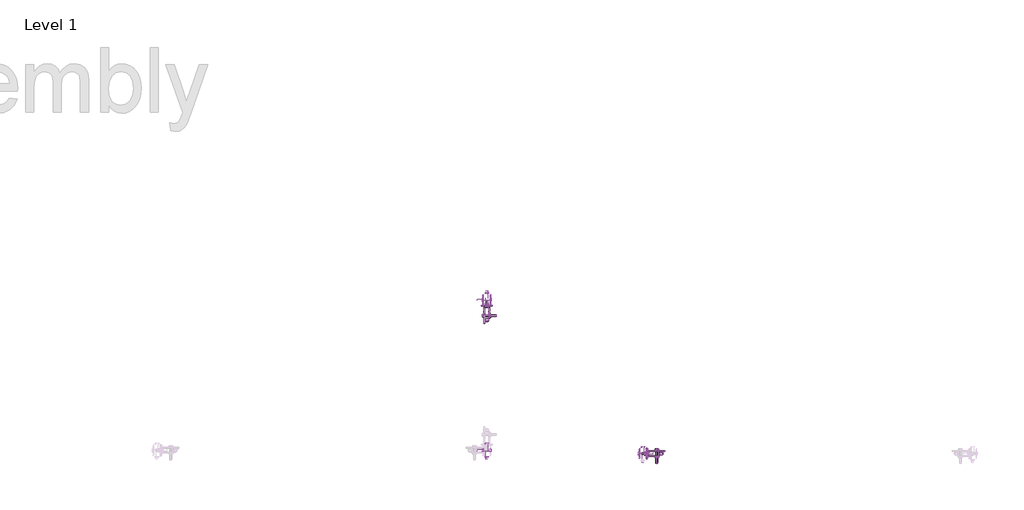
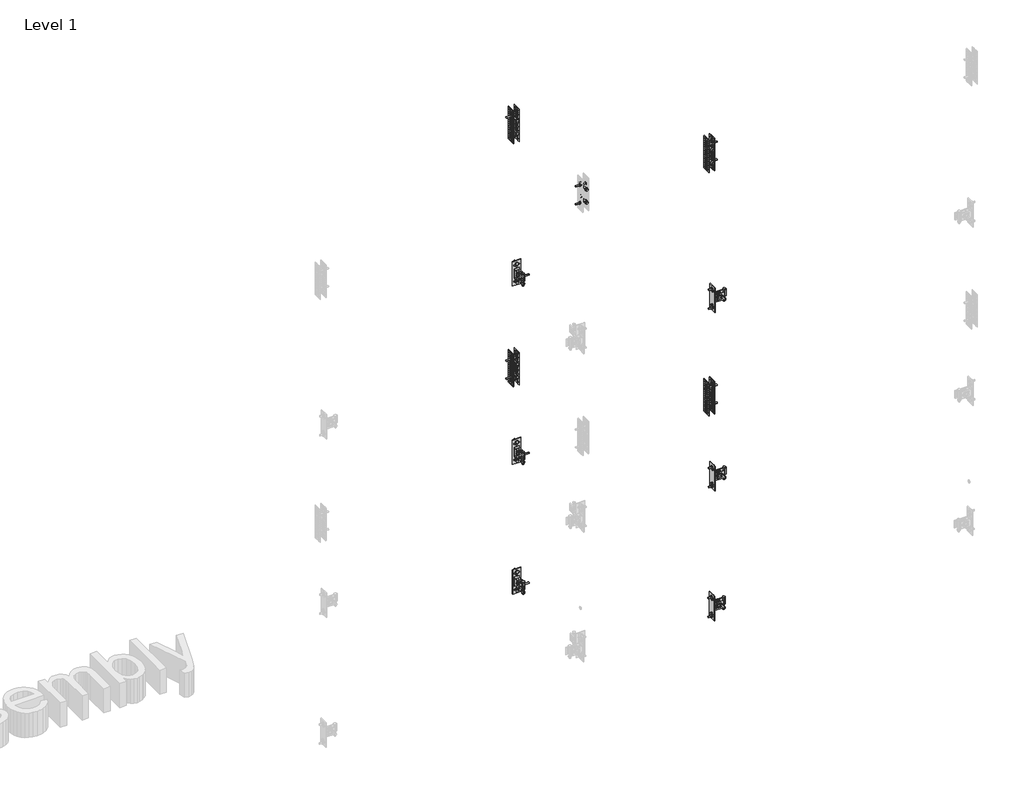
# One storey, part 15 of 32: 143 valves.
"""IFC4 building model written with IfcOpenShell, lengths in millimetres."""

from ifc_helpers import new_model, si_unit, origin, place, context, project, spatial, transform, mapped, element, save
from components import valve_fad8a5b8, hexagon_nut_galvanized_extra_m8_53389388, superfix_hexagon_screw_galvanized_8354a985, superfix_hexagon_screw_galvanized_f0d66714, superfix_hexagon_screw_galvanized_68d17cb7, superfix_hexagon_screw_galvanized_e39b877e, superfix_hexagon_screw_galvanized_3ef5af78, superfix_hexagon_screw_galvanized_3d7df342, superfix_strap_981cfdac, superfix_u_658711f6, superfix_u_bracket_h_0b8578fe, superfix_u_bracket_h_f60a1122

model = new_model("IFC4")

# Units and contexts
model_context = context("Model", 3, world=origin())
ifc_project = project(units=[si_unit("LENGTHUNIT", "METRE", prefix="MILLI")], contexts=[model_context])

# Site, building, storey
site = spatial("IfcSite", under=ifc_project)
building = spatial("IfcBuilding", under=site)
storey = spatial("IfcBuildingStorey", under=building, Name="Level 1", Elevation=0.0)

# Valves
placement = place(None, origin())
valve_shape = valve_fad8a5b8(model_context)
element("IfcValve", 1, ObjectType="Superfix Flat Washer : Superfix Flat Washer M8x15x1.5", at=placement, inside=storey, context=model_context, shape_type="MappedRepresentation", body=[
    mapped(valve_shape, transform((-16407.8949112, 29404.96055, 2600.0), x_axis=(0.0, 1.0, 0.0), y_axis=(0.0, 0.0, 1.0), z_axis=(1.0, 0.0, 0.0))),
])
element("IfcValve", 2, ObjectType="Superfix Flat Washer : Superfix Flat Washer M8x15x1.5", at=placement, inside=storey, context=model_context, shape_type="MappedRepresentation", body=[
    mapped(valve_shape, transform((-16420.3949112, 29455.96055, 2658.0), x_axis=(0.0, 0.0, 1.0), y_axis=(-1.0, 0.0, 0.0), z_axis=(0.0, -1.0, 0.0))),
])
element("IfcValve", 3, ObjectType="Superfix Flat Washer : Superfix Flat Washer M8x15x1.5", at=placement, inside=storey, context=model_context, shape_type="MappedRepresentation", body=[
    mapped(valve_shape, transform((-16420.3949112, 29455.96055, 2542.0), x_axis=(0.0, 0.0, 1.0), y_axis=(-1.0, 0.0, 0.0), z_axis=(0.0, -1.0, 0.0))),
])
element("IfcValve", 4, ObjectType="Superfix Flat Washer : Superfix Flat Washer M8x15x1.5", at=placement, inside=storey, context=model_context, shape_type="MappedRepresentation", body=[
    mapped(valve_shape, transform((-16420.3949112, 29384.96055, 2571.5), x_axis=(0.0, 1.0, 0.0), y_axis=(1.0, 0.0, 0.0), z_axis=(0.0, 0.0, -1.0))),
])
element("IfcValve", 5, ObjectType="Superfix Flat Washer : Superfix Flat Washer M8x15x1.5", at=placement, inside=storey, context=model_context, shape_type="MappedRepresentation", body=[
    mapped(valve_shape, transform((-16407.8949112, 29404.96055, 1500.0), x_axis=(0.0, 1.0, 0.0), y_axis=(0.0, 0.0, 1.0), z_axis=(1.0, 0.0, 0.0))),
])
element("IfcValve", 6, ObjectType="Superfix Flat Washer : Superfix Flat Washer M8x15x1.5", at=placement, inside=storey, context=model_context, shape_type="MappedRepresentation", body=[
    mapped(valve_shape, transform((-16420.3949112, 29455.96055, 1558.0), x_axis=(0.0, 0.0, 1.0), y_axis=(-1.0, 0.0, 0.0), z_axis=(0.0, -1.0, 0.0))),
])
element("IfcValve", 7, ObjectType="Superfix Flat Washer : Superfix Flat Washer M8x15x1.5", at=placement, inside=storey, context=model_context, shape_type="MappedRepresentation", body=[
    mapped(valve_shape, transform((-16420.3949112, 29455.96055, 1442.0), x_axis=(0.0, 0.0, 1.0), y_axis=(-1.0, 0.0, 0.0), z_axis=(0.0, -1.0, 0.0))),
])
element("IfcValve", 8, ObjectType="Superfix Flat Washer : Superfix Flat Washer M8x15x1.5", at=placement, inside=storey, context=model_context, shape_type="MappedRepresentation", body=[
    mapped(valve_shape, transform((-16420.3949112, 29384.96055, 1471.5), x_axis=(0.0, 1.0, 0.0), y_axis=(1.0, 0.0, 0.0), z_axis=(0.0, 0.0, -1.0))),
])
element("IfcValve", 9, ObjectType="Superfix Flat Washer : Superfix Flat Washer M8x15x1.5", at=placement, inside=storey, context=model_context, shape_type="MappedRepresentation", body=[
    mapped(valve_shape, transform((-16407.8949112, 29403.96055, 700.0), x_axis=(0.0, 1.0, 0.0), y_axis=(0.0, 0.0, 1.0), z_axis=(1.0, 0.0, 0.0))),
])
element("IfcValve", 10, ObjectType="Superfix Flat Washer : Superfix Flat Washer M8x15x1.5", at=placement, inside=storey, context=model_context, shape_type="MappedRepresentation", body=[
    mapped(valve_shape, transform((-16420.3949112, 29454.96055, 758.0), x_axis=(0.0, 0.0, 1.0), y_axis=(-1.0, 0.0, 0.0), z_axis=(0.0, -1.0, 0.0))),
])
element("IfcValve", 11, ObjectType="Superfix Flat Washer : Superfix Flat Washer M8x15x1.5", at=placement, inside=storey, context=model_context, shape_type="MappedRepresentation", body=[
    mapped(valve_shape, transform((-16420.3949112, 29454.96055, 642.0), x_axis=(0.0, 0.0, 1.0), y_axis=(-1.0, 0.0, 0.0), z_axis=(0.0, -1.0, 0.0))),
])
element("IfcValve", 12, ObjectType="Superfix Flat Washer : Superfix Flat Washer M8x15x1.5", at=placement, inside=storey, context=model_context, shape_type="MappedRepresentation", body=[
    mapped(valve_shape, transform((-16420.3949112, 29383.96055, 671.5), x_axis=(0.0, 1.0, 0.0), y_axis=(1.0, 0.0, 0.0), z_axis=(0.0, 0.0, -1.0))),
])
element("IfcValve", 13, ObjectType="Superfix Flat Washer : Superfix Flat Washer M8x15x1.5", at=placement, inside=storey, context=model_context, shape_type="MappedRepresentation", body=[
    mapped(valve_shape, transform((-15631.2824311, 28749.96055, 700.0), x_axis=(1.0, 0.0, 0.0), y_axis=(0.0, 0.0, 1.0), z_axis=(0.0, -1.0, 0.0))),
])
element("IfcValve", 14, ObjectType="Superfix Flat Washer : Superfix Flat Washer M8x15x1.5", at=placement, inside=storey, context=model_context, shape_type="MappedRepresentation", body=[
    mapped(valve_shape, transform((-15680.6824311, 28762.46055, 642.0), x_axis=(0.0, 0.0, 1.0), y_axis=(0.0, 1.0, 0.0), z_axis=(-1.0, 0.0, 0.0))),
])
element("IfcValve", 15, ObjectType="Superfix Flat Washer : Superfix Flat Washer M8x15x1.5", at=placement, inside=storey, context=model_context, shape_type="MappedRepresentation", body=[
    mapped(valve_shape, transform((-15680.6824311, 28762.46055, 758.0), x_axis=(0.0, 0.0, 1.0), y_axis=(0.0, 1.0, 0.0), z_axis=(-1.0, 0.0, 0.0))),
])
element("IfcValve", 16, ObjectType="Superfix Flat Washer : Superfix Flat Washer M8x15x1.5", at=placement, inside=storey, context=model_context, shape_type="MappedRepresentation", body=[
    mapped(valve_shape, transform((-15611.2824311, 28762.46055, 671.5), x_axis=(1.0, 0.0, 0.0), y_axis=(0.0, -1.0, 0.0), z_axis=(0.0, 0.0, -1.0))),
])
element("IfcValve", 17, ObjectType="Superfix Flat Washer : Superfix Flat Washer M8x15x1.5", at=placement, inside=storey, context=model_context, shape_type="MappedRepresentation", body=[
    mapped(valve_shape, transform((-15628.2824311, 28749.96055, 2600.0), x_axis=(1.0, 0.0, 0.0), y_axis=(0.0, 0.0, 1.0), z_axis=(0.0, -1.0, 0.0))),
])
element("IfcValve", 18, ObjectType="Superfix Flat Washer : Superfix Flat Washer M8x15x1.5", at=placement, inside=storey, context=model_context, shape_type="MappedRepresentation", body=[
    mapped(valve_shape, transform((-15677.6824311, 28762.46055, 2542.0), x_axis=(0.0, 0.0, 1.0), y_axis=(0.0, 1.0, 0.0), z_axis=(-1.0, 0.0, 0.0))),
])
element("IfcValve", 19, ObjectType="Superfix Flat Washer : Superfix Flat Washer M8x15x1.5", at=placement, inside=storey, context=model_context, shape_type="MappedRepresentation", body=[
    mapped(valve_shape, transform((-15677.6824311, 28762.46055, 2658.0), x_axis=(0.0, 0.0, 1.0), y_axis=(0.0, 1.0, 0.0), z_axis=(-1.0, 0.0, 0.0))),
])
element("IfcValve", 20, ObjectType="Superfix Flat Washer : Superfix Flat Washer M8x15x1.5", at=placement, inside=storey, context=model_context, shape_type="MappedRepresentation", body=[
    mapped(valve_shape, transform((-15608.2824311, 28762.46055, 2571.5), x_axis=(1.0, 0.0, 0.0), y_axis=(0.0, -1.0, 0.0), z_axis=(0.0, 0.0, -1.0))),
])
element("IfcValve", 21, ObjectType="Superfix Flat Washer : Superfix Flat Washer M8x15x1.5", at=placement, inside=storey, context=model_context, shape_type="MappedRepresentation", body=[
    mapped(valve_shape, transform((-15628.2824311, 28749.96055, 1500.0), x_axis=(1.0, 0.0, 0.0), y_axis=(0.0, 0.0, 1.0), z_axis=(0.0, -1.0, 0.0))),
])
element("IfcValve", 22, ObjectType="Superfix Flat Washer : Superfix Flat Washer M8x15x1.5", at=placement, inside=storey, context=model_context, shape_type="MappedRepresentation", body=[
    mapped(valve_shape, transform((-15677.6824311, 28762.46055, 1442.0), x_axis=(0.0, 0.0, 1.0), y_axis=(0.0, 1.0, 0.0), z_axis=(-1.0, 0.0, 0.0))),
])
element("IfcValve", 23, ObjectType="Superfix Flat Washer : Superfix Flat Washer M8x15x1.5", at=placement, inside=storey, context=model_context, shape_type="MappedRepresentation", body=[
    mapped(valve_shape, transform((-15677.6824311, 28762.46055, 1558.0), x_axis=(0.0, 0.0, 1.0), y_axis=(0.0, 1.0, 0.0), z_axis=(-1.0, 0.0, 0.0))),
])
element("IfcValve", 24, ObjectType="Superfix Flat Washer : Superfix Flat Washer M8x15x1.5", at=placement, inside=storey, context=model_context, shape_type="MappedRepresentation", body=[
    mapped(valve_shape, transform((-15608.2824311, 28762.46055, 1471.5), x_axis=(1.0, 0.0, 0.0), y_axis=(0.0, -1.0, 0.0), z_axis=(0.0, 0.0, -1.0))),
])
element("IfcValve", 25, ObjectType="Superfix Flat Washer : Superfix Flat Washer M8x15x1.5", at=placement, inside=storey, context=model_context, shape_type="MappedRepresentation", body=[
    mapped(valve_shape, transform((-16437.9949112, 29477.96055, 2055.0), x_axis=(0.0, 1.0, 0.0), y_axis=(0.0, 0.0, 1.0), z_axis=(1.0, 0.0, 0.0))),
])
element("IfcValve", 26, ObjectType="Superfix Flat Washer : Superfix Flat Washer M8x15x1.5", at=placement, inside=storey, context=model_context, shape_type="MappedRepresentation", body=[
    mapped(valve_shape, transform((-16437.9949112, 29477.96055, 1945.0), x_axis=(0.0, 1.0, 0.0), y_axis=(0.0, 0.0, 1.0), z_axis=(1.0, 0.0, 0.0))),
])
element("IfcValve", 27, ObjectType="Superfix Flat Washer : Superfix Flat Washer M8x15x1.5", at=placement, inside=storey, context=model_context, shape_type="MappedRepresentation", body=[
    mapped(valve_shape, transform((-16420.3949112, 29508.06055, 2040.0), x_axis=(1.0, 0.0, 0.0), y_axis=(0.0, 0.0, 1.0), z_axis=(0.0, -1.0, 0.0))),
])
element("IfcValve", 28, ObjectType="Superfix Flat Washer : Superfix Flat Washer M8x15x1.5", at=placement, inside=storey, context=model_context, shape_type="MappedRepresentation", body=[
    mapped(valve_shape, transform((-16420.3949112, 29508.06055, 1960.0), x_axis=(1.0, 0.0, 0.0), y_axis=(0.0, 0.0, 1.0), z_axis=(0.0, -1.0, 0.0))),
])
element("IfcValve", 29, ObjectType="Superfix Flat Washer : Superfix Flat Washer M8x15x1.5", at=placement, inside=storey, context=model_context, shape_type="MappedRepresentation", body=[
    mapped(valve_shape, transform((-15679.2824311, 28762.46055, 1945.0), x_axis=(0.0, 1.0, 0.0), y_axis=(0.0, 0.0, 1.0), z_axis=(1.0, 0.0, 0.0))),
])
element("IfcValve", 30, ObjectType="Superfix Flat Washer : Superfix Flat Washer M8x15x1.5", at=placement, inside=storey, context=model_context, shape_type="MappedRepresentation", body=[
    mapped(valve_shape, transform((-15679.2824311, 28762.46055, 2055.0), x_axis=(0.0, 1.0, 0.0), y_axis=(0.0, 0.0, 1.0), z_axis=(1.0, 0.0, 0.0))),
])
element("IfcValve", 31, ObjectType="Superfix Flat Washer : Superfix Flat Washer M8x15x1.5", at=placement, inside=storey, context=model_context, shape_type="MappedRepresentation", body=[
    mapped(valve_shape, transform((-15695.2824311, 28733.96055, 2040.0), x_axis=(1.0, 0.0, 0.0), y_axis=(0.0, 0.0, 1.0), z_axis=(0.0, -1.0, 0.0))),
])
element("IfcValve", 32, ObjectType="Superfix Flat Washer : Superfix Flat Washer M8x15x1.5", at=placement, inside=storey, context=model_context, shape_type="MappedRepresentation", body=[
    mapped(valve_shape, transform((-15695.2824311, 28733.96055, 1960.0), x_axis=(1.0, 0.0, 0.0), y_axis=(0.0, 0.0, 1.0), z_axis=(0.0, -1.0, 0.0))),
])
element("IfcValve", 33, ObjectType="Superfix Flat Washer : Superfix Flat Washer M8x15x1.5", at=placement, inside=storey, context=model_context, shape_type="MappedRepresentation", body=[
    mapped(valve_shape, transform((-15679.2824311, 28762.46055, 3445.0), x_axis=(0.0, 1.0, 0.0), y_axis=(0.0, 0.0, 1.0), z_axis=(1.0, 0.0, 0.0))),
])
element("IfcValve", 34, ObjectType="Superfix Flat Washer : Superfix Flat Washer M8x15x1.5", at=placement, inside=storey, context=model_context, shape_type="MappedRepresentation", body=[
    mapped(valve_shape, transform((-15679.2824311, 28762.46055, 3555.0), x_axis=(0.0, 1.0, 0.0), y_axis=(0.0, 0.0, 1.0), z_axis=(1.0, 0.0, 0.0))),
])
element("IfcValve", 35, ObjectType="Superfix Flat Washer : Superfix Flat Washer M8x15x1.5", at=placement, inside=storey, context=model_context, shape_type="MappedRepresentation", body=[
    mapped(valve_shape, transform((-16437.9949112, 29477.96055, 3555.0), x_axis=(0.0, 1.0, 0.0), y_axis=(0.0, 0.0, 1.0), z_axis=(1.0, 0.0, 0.0))),
])
element("IfcValve", 36, ObjectType="Superfix Flat Washer : Superfix Flat Washer M8x15x1.5", at=placement, inside=storey, context=model_context, shape_type="MappedRepresentation", body=[
    mapped(valve_shape, transform((-16437.9949112, 29477.96055, 3445.0), x_axis=(0.0, 1.0, 0.0), y_axis=(0.0, 0.0, 1.0), z_axis=(1.0, 0.0, 0.0))),
])
element("IfcValve", 37, ObjectType="Superfix Flat Washer : Superfix Flat Washer M8x15x1.5", at=placement, inside=storey, context=model_context, shape_type="MappedRepresentation", body=[
    mapped(valve_shape, transform((-16437.9949112, 28777.96055, 3555.0), x_axis=(0.0, 1.0, 0.0), y_axis=(0.0, 0.0, 1.0), z_axis=(1.0, 0.0, 0.0))),
])
element("IfcValve", 38, ObjectType="Superfix Flat Washer : Superfix Flat Washer M8x15x1.5", at=placement, inside=storey, context=model_context, shape_type="MappedRepresentation", body=[
    mapped(valve_shape, transform((-16420.3949112, 29508.06055, 3540.0), x_axis=(1.0, 0.0, 0.0), y_axis=(0.0, 0.0, 1.0), z_axis=(0.0, -1.0, 0.0))),
])
element("IfcValve", 39, ObjectType="Superfix Flat Washer : Superfix Flat Washer M8x15x1.5", at=placement, inside=storey, context=model_context, shape_type="MappedRepresentation", body=[
    mapped(valve_shape, transform((-16420.3949112, 29508.06055, 3460.0), x_axis=(1.0, 0.0, 0.0), y_axis=(0.0, 0.0, 1.0), z_axis=(0.0, -1.0, 0.0))),
])
element("IfcValve", 40, ObjectType="Superfix Flat Washer : Superfix Flat Washer M8x15x1.5", at=placement, inside=storey, context=model_context, shape_type="MappedRepresentation", body=[
    mapped(valve_shape, transform((-16420.3949112, 28749.46055, 3540.0), x_axis=(1.0, 0.0, 0.0), y_axis=(0.0, 0.0, 1.0), z_axis=(0.0, -1.0, 0.0))),
])
element("IfcValve", 41, ObjectType="Superfix Flat Washer : Superfix Flat Washer M8x15x1.5", at=placement, inside=storey, context=model_context, shape_type="MappedRepresentation", body=[
    mapped(valve_shape, transform((-16420.3949112, 28749.46055, 3460.0), x_axis=(1.0, 0.0, 0.0), y_axis=(0.0, 0.0, 1.0), z_axis=(0.0, -1.0, 0.0))),
])
hexagon_nut_galvanized_extra_m8_shape = hexagon_nut_galvanized_extra_m8_53389388(model_context)
element("IfcValve", 42, ObjectType="Superfix Hexagon Nut Galvanized : Hexagon Nut Galvanized M8", at=placement, inside=storey, context=model_context, shape_type="MappedRepresentation", body=[
    mapped(hexagon_nut_galvanized_extra_m8_shape, transform((-16407.8949112, 29404.96055, 2600.0), x_axis=(0.0, 1.0, 0.0), y_axis=(0.0, 0.0, 1.0), z_axis=(1.0, 0.0, 0.0))),
])
element("IfcValve", 43, ObjectType="Superfix Hexagon Nut Galvanized : Hexagon Nut Galvanized M8", at=placement, inside=storey, context=model_context, shape_type="MappedRepresentation", body=[
    mapped(hexagon_nut_galvanized_extra_m8_shape, transform((-16420.3949112, 29384.96055, 2565.0), x_axis=(-1.0, 0.0, 0.0), y_axis=(0.0, -1.0, 0.0), z_axis=(0.0, 0.0, 1.0))),
])
element("IfcValve", 44, ObjectType="Superfix Hexagon Nut Galvanized : Hexagon Nut Galvanized M8", at=placement, inside=storey, context=model_context, shape_type="MappedRepresentation", body=[
    mapped(hexagon_nut_galvanized_extra_m8_shape, transform((-16420.3949112, 29462.46055, 2542.0), x_axis=(0.0, 0.0, 1.0), y_axis=(-1.0, 0.0, 0.0), z_axis=(0.0, -1.0, 0.0))),
])
element("IfcValve", 45, ObjectType="Superfix Hexagon Nut Galvanized : Hexagon Nut Galvanized M8", at=placement, inside=storey, context=model_context, shape_type="MappedRepresentation", body=[
    mapped(hexagon_nut_galvanized_extra_m8_shape, transform((-16420.3949112, 29462.46055, 2658.0), x_axis=(0.0, 0.0, 1.0), y_axis=(-1.0, 0.0, 0.0), z_axis=(0.0, -1.0, 0.0))),
])
element("IfcValve", 46, ObjectType="Superfix Hexagon Nut Galvanized : Hexagon Nut Galvanized M8", at=placement, inside=storey, context=model_context, shape_type="MappedRepresentation", body=[
    mapped(hexagon_nut_galvanized_extra_m8_shape, transform((-16407.8949112, 29404.96055, 1500.0), x_axis=(0.0, 1.0, 0.0), y_axis=(0.0, 0.0, 1.0), z_axis=(1.0, 0.0, 0.0))),
])
element("IfcValve", 47, ObjectType="Superfix Hexagon Nut Galvanized : Hexagon Nut Galvanized M8", at=placement, inside=storey, context=model_context, shape_type="MappedRepresentation", body=[
    mapped(hexagon_nut_galvanized_extra_m8_shape, transform((-16420.3949112, 29384.96055, 1465.0), x_axis=(-1.0, 0.0, 0.0), y_axis=(0.0, -1.0, 0.0), z_axis=(0.0, 0.0, 1.0))),
])
element("IfcValve", 48, ObjectType="Superfix Hexagon Nut Galvanized : Hexagon Nut Galvanized M8", at=placement, inside=storey, context=model_context, shape_type="MappedRepresentation", body=[
    mapped(hexagon_nut_galvanized_extra_m8_shape, transform((-16420.3949112, 29462.46055, 1442.0), x_axis=(0.0, 0.0, 1.0), y_axis=(-1.0, 0.0, 0.0), z_axis=(0.0, -1.0, 0.0))),
])
element("IfcValve", 49, ObjectType="Superfix Hexagon Nut Galvanized : Hexagon Nut Galvanized M8", at=placement, inside=storey, context=model_context, shape_type="MappedRepresentation", body=[
    mapped(hexagon_nut_galvanized_extra_m8_shape, transform((-16420.3949112, 29462.46055, 1558.0), x_axis=(0.0, 0.0, 1.0), y_axis=(-1.0, 0.0, 0.0), z_axis=(0.0, -1.0, 0.0))),
])
element("IfcValve", 50, ObjectType="Superfix Hexagon Nut Galvanized : Hexagon Nut Galvanized M8", at=placement, inside=storey, context=model_context, shape_type="MappedRepresentation", body=[
    mapped(hexagon_nut_galvanized_extra_m8_shape, transform((-16407.8949112, 29403.96055, 700.0), x_axis=(0.0, 1.0, 0.0), y_axis=(0.0, 0.0, 1.0), z_axis=(1.0, 0.0, 0.0))),
])
element("IfcValve", 51, ObjectType="Superfix Hexagon Nut Galvanized : Hexagon Nut Galvanized M8", at=placement, inside=storey, context=model_context, shape_type="MappedRepresentation", body=[
    mapped(hexagon_nut_galvanized_extra_m8_shape, transform((-16420.3949112, 29383.96055, 665.0), x_axis=(-1.0, 0.0, 0.0), y_axis=(0.0, -1.0, 0.0), z_axis=(0.0, 0.0, 1.0))),
])
element("IfcValve", 52, ObjectType="Superfix Hexagon Nut Galvanized : Hexagon Nut Galvanized M8", at=placement, inside=storey, context=model_context, shape_type="MappedRepresentation", body=[
    mapped(hexagon_nut_galvanized_extra_m8_shape, transform((-16420.3949112, 29461.46055, 642.0), x_axis=(0.0, 0.0, 1.0), y_axis=(-1.0, 0.0, 0.0), z_axis=(0.0, -1.0, 0.0))),
])
element("IfcValve", 53, ObjectType="Superfix Hexagon Nut Galvanized : Hexagon Nut Galvanized M8", at=placement, inside=storey, context=model_context, shape_type="MappedRepresentation", body=[
    mapped(hexagon_nut_galvanized_extra_m8_shape, transform((-16420.3949112, 29461.46055, 758.0), x_axis=(0.0, 0.0, 1.0), y_axis=(-1.0, 0.0, 0.0), z_axis=(0.0, -1.0, 0.0))),
])
element("IfcValve", 54, ObjectType="Superfix Hexagon Nut Galvanized : Hexagon Nut Galvanized M8", at=placement, inside=storey, context=model_context, shape_type="MappedRepresentation", body=[
    mapped(hexagon_nut_galvanized_extra_m8_shape, transform((-15631.2824311, 28749.96055, 700.0), x_axis=(-1.0, 0.0, 0.0), y_axis=(0.0, 0.0, -1.0), z_axis=(0.0, -1.0, 0.0))),
])
element("IfcValve", 55, ObjectType="Superfix Hexagon Nut Galvanized : Hexagon Nut Galvanized M8", at=placement, inside=storey, context=model_context, shape_type="MappedRepresentation", body=[
    mapped(hexagon_nut_galvanized_extra_m8_shape, transform((-15611.2824311, 28762.46055, 665.0), x_axis=(0.0, 1.0, 0.0), y_axis=(-1.0, 0.0, 0.0), z_axis=(0.0, 0.0, 1.0))),
])
element("IfcValve", 56, ObjectType="Superfix Hexagon Nut Galvanized : Hexagon Nut Galvanized M8", at=placement, inside=storey, context=model_context, shape_type="MappedRepresentation", body=[
    mapped(hexagon_nut_galvanized_extra_m8_shape, transform((-15688.7824311, 28762.46055, 642.0), x_axis=(0.0, 0.0, 1.0), y_axis=(0.0, -1.0, 0.0), z_axis=(1.0, 0.0, 0.0))),
])
element("IfcValve", 57, ObjectType="Superfix Hexagon Nut Galvanized : Hexagon Nut Galvanized M8", at=placement, inside=storey, context=model_context, shape_type="MappedRepresentation", body=[
    mapped(hexagon_nut_galvanized_extra_m8_shape, transform((-15688.7824311, 28762.46055, 758.0), x_axis=(0.0, 0.0, 1.0), y_axis=(0.0, -1.0, 0.0), z_axis=(1.0, 0.0, 0.0))),
])
element("IfcValve", 58, ObjectType="Superfix Hexagon Nut Galvanized : Hexagon Nut Galvanized M8", at=placement, inside=storey, context=model_context, shape_type="MappedRepresentation", body=[
    mapped(hexagon_nut_galvanized_extra_m8_shape, transform((-15628.2824311, 28749.96055, 2600.0), x_axis=(-1.0, 0.0, 0.0), y_axis=(0.0, 0.0, -1.0), z_axis=(0.0, -1.0, 0.0))),
])
element("IfcValve", 59, ObjectType="Superfix Hexagon Nut Galvanized : Hexagon Nut Galvanized M8", at=placement, inside=storey, context=model_context, shape_type="MappedRepresentation", body=[
    mapped(hexagon_nut_galvanized_extra_m8_shape, transform((-15608.2824311, 28762.46055, 2565.0), x_axis=(0.0, 1.0, 0.0), y_axis=(-1.0, 0.0, 0.0), z_axis=(0.0, 0.0, 1.0))),
])
element("IfcValve", 60, ObjectType="Superfix Hexagon Nut Galvanized : Hexagon Nut Galvanized M8", at=placement, inside=storey, context=model_context, shape_type="MappedRepresentation", body=[
    mapped(hexagon_nut_galvanized_extra_m8_shape, transform((-15685.7824311, 28762.46055, 2542.0), x_axis=(0.0, 0.0, 1.0), y_axis=(0.0, -1.0, 0.0), z_axis=(1.0, 0.0, 0.0))),
])
element("IfcValve", 61, ObjectType="Superfix Hexagon Nut Galvanized : Hexagon Nut Galvanized M8", at=placement, inside=storey, context=model_context, shape_type="MappedRepresentation", body=[
    mapped(hexagon_nut_galvanized_extra_m8_shape, transform((-15685.7824311, 28762.46055, 2658.0), x_axis=(0.0, 0.0, 1.0), y_axis=(0.0, -1.0, 0.0), z_axis=(1.0, 0.0, 0.0))),
])
element("IfcValve", 62, ObjectType="Superfix Hexagon Nut Galvanized : Hexagon Nut Galvanized M8", at=placement, inside=storey, context=model_context, shape_type="MappedRepresentation", body=[
    mapped(hexagon_nut_galvanized_extra_m8_shape, transform((-15628.2824311, 28749.96055, 1500.0), x_axis=(-1.0, 0.0, 0.0), y_axis=(0.0, 0.0, -1.0), z_axis=(0.0, -1.0, 0.0))),
])
element("IfcValve", 63, ObjectType="Superfix Hexagon Nut Galvanized : Hexagon Nut Galvanized M8", at=placement, inside=storey, context=model_context, shape_type="MappedRepresentation", body=[
    mapped(hexagon_nut_galvanized_extra_m8_shape, transform((-15608.2824311, 28762.46055, 1465.0), x_axis=(0.0, 1.0, 0.0), y_axis=(-1.0, 0.0, 0.0), z_axis=(0.0, 0.0, 1.0))),
])
element("IfcValve", 64, ObjectType="Superfix Hexagon Nut Galvanized : Hexagon Nut Galvanized M8", at=placement, inside=storey, context=model_context, shape_type="MappedRepresentation", body=[
    mapped(hexagon_nut_galvanized_extra_m8_shape, transform((-15685.7824311, 28762.46055, 1442.0), x_axis=(0.0, 0.0, 1.0), y_axis=(0.0, -1.0, 0.0), z_axis=(1.0, 0.0, 0.0))),
])
element("IfcValve", 65, ObjectType="Superfix Hexagon Nut Galvanized : Hexagon Nut Galvanized M8", at=placement, inside=storey, context=model_context, shape_type="MappedRepresentation", body=[
    mapped(hexagon_nut_galvanized_extra_m8_shape, transform((-15685.7824311, 28762.46055, 1558.0), x_axis=(0.0, 0.0, 1.0), y_axis=(0.0, -1.0, 0.0), z_axis=(1.0, 0.0, 0.0))),
])
element("IfcValve", 66, ObjectType="Superfix Hexagon Nut Galvanized : Hexagon Nut Galvanized M8", at=placement, inside=storey, context=model_context, shape_type="MappedRepresentation", body=[
    mapped(hexagon_nut_galvanized_extra_m8_shape, transform((-16436.3949112, 29477.96055, 2055.0), x_axis=(0.0, 1.0, 0.0), y_axis=(0.0, 0.0, -1.0), z_axis=(-1.0, 0.0, 0.0))),
])
element("IfcValve", 67, ObjectType="Superfix Hexagon Nut Galvanized : Hexagon Nut Galvanized M8", at=placement, inside=storey, context=model_context, shape_type="MappedRepresentation", body=[
    mapped(hexagon_nut_galvanized_extra_m8_shape, transform((-16436.3949112, 29477.96055, 1945.0), x_axis=(0.0, 1.0, 0.0), y_axis=(0.0, 0.0, -1.0), z_axis=(-1.0, 0.0, 0.0))),
])
element("IfcValve", 68, ObjectType="Superfix Hexagon Nut Galvanized : Hexagon Nut Galvanized M8", at=placement, inside=storey, context=model_context, shape_type="MappedRepresentation", body=[
    mapped(hexagon_nut_galvanized_extra_m8_shape, transform((-16420.3949112, 29512.96055, 2040.0), x_axis=(1.0, 0.0, 0.0), y_axis=(0.0, 0.0, 1.0), z_axis=(0.0, -1.0, 0.0))),
])
element("IfcValve", 69, ObjectType="Superfix Hexagon Nut Galvanized : Hexagon Nut Galvanized M8", at=placement, inside=storey, context=model_context, shape_type="MappedRepresentation", body=[
    mapped(hexagon_nut_galvanized_extra_m8_shape, transform((-16420.3949112, 29512.96055, 1960.0), x_axis=(1.0, 0.0, 0.0), y_axis=(0.0, 0.0, 1.0), z_axis=(0.0, -1.0, 0.0))),
])
element("IfcValve", 70, ObjectType="Superfix Hexagon Nut Galvanized : Hexagon Nut Galvanized M8", at=placement, inside=storey, context=model_context, shape_type="MappedRepresentation", body=[
    mapped(hexagon_nut_galvanized_extra_m8_shape, transform((-15679.2824311, 28762.46055, 2055.0), x_axis=(0.0, 1.0, 0.0), y_axis=(0.0, 0.0, 1.0), z_axis=(1.0, 0.0, 0.0))),
])
element("IfcValve", 71, ObjectType="Superfix Hexagon Nut Galvanized : Hexagon Nut Galvanized M8", at=placement, inside=storey, context=model_context, shape_type="MappedRepresentation", body=[
    mapped(hexagon_nut_galvanized_extra_m8_shape, transform((-15679.2824311, 28762.46055, 1945.0), x_axis=(0.0, 1.0, 0.0), y_axis=(0.0, 0.0, 1.0), z_axis=(1.0, 0.0, 0.0))),
])
element("IfcValve", 72, ObjectType="Superfix Hexagon Nut Galvanized : Hexagon Nut Galvanized M8", at=placement, inside=storey, context=model_context, shape_type="MappedRepresentation", body=[
    mapped(hexagon_nut_galvanized_extra_m8_shape, transform((-15695.2824311, 28733.96055, 2040.0), x_axis=(1.0, 0.0, 0.0), y_axis=(0.0, 0.0, 1.0), z_axis=(0.0, -1.0, 0.0))),
])
element("IfcValve", 73, ObjectType="Superfix Hexagon Nut Galvanized : Hexagon Nut Galvanized M8", at=placement, inside=storey, context=model_context, shape_type="MappedRepresentation", body=[
    mapped(hexagon_nut_galvanized_extra_m8_shape, transform((-15695.2824311, 28733.96055, 1960.0), x_axis=(1.0, 0.0, 0.0), y_axis=(0.0, 0.0, 1.0), z_axis=(0.0, -1.0, 0.0))),
])
element("IfcValve", 74, ObjectType="Superfix Hexagon Nut Galvanized : Hexagon Nut Galvanized M8", at=placement, inside=storey, context=model_context, shape_type="MappedRepresentation", body=[
    mapped(hexagon_nut_galvanized_extra_m8_shape, transform((-15679.2824311, 28762.46055, 3555.0), x_axis=(0.0, 1.0, 0.0), y_axis=(0.0, 0.0, 1.0), z_axis=(1.0, 0.0, 0.0))),
])
element("IfcValve", 75, ObjectType="Superfix Hexagon Nut Galvanized : Hexagon Nut Galvanized M8", at=placement, inside=storey, context=model_context, shape_type="MappedRepresentation", body=[
    mapped(hexagon_nut_galvanized_extra_m8_shape, transform((-15679.2824311, 28762.46055, 3445.0), x_axis=(0.0, 1.0, 0.0), y_axis=(0.0, 0.0, 1.0), z_axis=(1.0, 0.0, 0.0))),
])
element("IfcValve", 76, ObjectType="Superfix Hexagon Nut Galvanized : Hexagon Nut Galvanized M8", at=placement, inside=storey, context=model_context, shape_type="MappedRepresentation", body=[
    mapped(hexagon_nut_galvanized_extra_m8_shape, transform((-16436.3949112, 28777.96055, 3555.0), x_axis=(0.0, 1.0, 0.0), y_axis=(0.0, 0.0, -1.0), z_axis=(-1.0, 0.0, 0.0))),
])
element("IfcValve", 77, ObjectType="Superfix Hexagon Nut Galvanized : Hexagon Nut Galvanized M8", at=placement, inside=storey, context=model_context, shape_type="MappedRepresentation", body=[
    mapped(hexagon_nut_galvanized_extra_m8_shape, transform((-16436.3949112, 28777.96055, 3445.0), x_axis=(0.0, 1.0, 0.0), y_axis=(0.0, 0.0, -1.0), z_axis=(-1.0, 0.0, 0.0))),
])
element("IfcValve", 78, ObjectType="Superfix Hexagon Nut Galvanized : Hexagon Nut Galvanized M8", at=placement, inside=storey, context=model_context, shape_type="MappedRepresentation", body=[
    mapped(hexagon_nut_galvanized_extra_m8_shape, transform((-16436.3949112, 29477.96055, 3555.0), x_axis=(0.0, 1.0, 0.0), y_axis=(0.0, 0.0, -1.0), z_axis=(-1.0, 0.0, 0.0))),
])
element("IfcValve", 79, ObjectType="Superfix Hexagon Nut Galvanized : Hexagon Nut Galvanized M8", at=placement, inside=storey, context=model_context, shape_type="MappedRepresentation", body=[
    mapped(hexagon_nut_galvanized_extra_m8_shape, transform((-16436.3949112, 29477.96055, 3445.0), x_axis=(0.0, 1.0, 0.0), y_axis=(0.0, 0.0, -1.0), z_axis=(-1.0, 0.0, 0.0))),
])
element("IfcValve", 80, ObjectType="Superfix Hexagon Nut Galvanized : Hexagon Nut Galvanized M8", at=placement, inside=storey, context=model_context, shape_type="MappedRepresentation", body=[
    mapped(hexagon_nut_galvanized_extra_m8_shape, transform((-16420.3949112, 28749.46055, 3540.0), x_axis=(1.0, 0.0, 0.0), y_axis=(0.0, 0.0, 1.0), z_axis=(0.0, -1.0, 0.0))),
])
element("IfcValve", 81, ObjectType="Superfix Hexagon Nut Galvanized : Hexagon Nut Galvanized M8", at=placement, inside=storey, context=model_context, shape_type="MappedRepresentation", body=[
    mapped(hexagon_nut_galvanized_extra_m8_shape, transform((-16420.3949112, 29512.96055, 3540.0), x_axis=(1.0, 0.0, 0.0), y_axis=(0.0, 0.0, 1.0), z_axis=(0.0, -1.0, 0.0))),
])
element("IfcValve", 82, ObjectType="Superfix Hexagon Nut Galvanized : Hexagon Nut Galvanized M8", at=placement, inside=storey, context=model_context, shape_type="MappedRepresentation", body=[
    mapped(hexagon_nut_galvanized_extra_m8_shape, transform((-16420.3949112, 28749.46055, 3460.0), x_axis=(1.0, 0.0, 0.0), y_axis=(0.0, 0.0, 1.0), z_axis=(0.0, -1.0, 0.0))),
])
element("IfcValve", 83, ObjectType="Superfix Hexagon Nut Galvanized : Hexagon Nut Galvanized M8", at=placement, inside=storey, context=model_context, shape_type="MappedRepresentation", body=[
    mapped(hexagon_nut_galvanized_extra_m8_shape, transform((-16420.3949112, 29512.96055, 3460.0), x_axis=(1.0, 0.0, 0.0), y_axis=(0.0, 0.0, 1.0), z_axis=(0.0, -1.0, 0.0))),
])
superfix_hexagon_screw_galvanized_shape = superfix_hexagon_screw_galvanized_8354a985(model_context)
element("IfcValve", 84, ObjectType="SuperFix Hexagon Screw Galvanized : Hexagon Screw Galvanized M8 × 25", at=placement, inside=storey, context=model_context, shape_type="MappedRepresentation", body=[
    mapped(superfix_hexagon_screw_galvanized_shape, transform((-15676.2824311, 28762.46055, 758.0), x_axis=(0.0, 0.0, 1.0), y_axis=(0.0, -1.0, 0.0), z_axis=(1.0, 0.0, 0.0))),
])
element("IfcValve", 85, ObjectType="SuperFix Hexagon Screw Galvanized : Hexagon Screw Galvanized M8 × 25", at=placement, inside=storey, context=model_context, shape_type="MappedRepresentation", body=[
    mapped(superfix_hexagon_screw_galvanized_shape, transform((-15676.2824311, 28762.46055, 642.0), x_axis=(0.0, 0.0, 1.0), y_axis=(0.0, -1.0, 0.0), z_axis=(1.0, 0.0, 0.0))),
])
element("IfcValve", 86, ObjectType="SuperFix Hexagon Screw Galvanized : Hexagon Screw Galvanized M8 × 25", at=placement, inside=storey, context=model_context, shape_type="MappedRepresentation", body=[
    mapped(superfix_hexagon_screw_galvanized_shape, transform((-15673.2824311, 28762.46055, 2658.0), x_axis=(0.0, 0.0, 1.0), y_axis=(0.0, -1.0, 0.0), z_axis=(1.0, 0.0, 0.0))),
])
element("IfcValve", 87, ObjectType="SuperFix Hexagon Screw Galvanized : Hexagon Screw Galvanized M8 × 25", at=placement, inside=storey, context=model_context, shape_type="MappedRepresentation", body=[
    mapped(superfix_hexagon_screw_galvanized_shape, transform((-15673.2824311, 28762.46055, 2542.0), x_axis=(0.0, 0.0, 1.0), y_axis=(0.0, -1.0, 0.0), z_axis=(1.0, 0.0, 0.0))),
])
element("IfcValve", 88, ObjectType="SuperFix Hexagon Screw Galvanized : Hexagon Screw Galvanized M8 × 25", at=placement, inside=storey, context=model_context, shape_type="MappedRepresentation", body=[
    mapped(superfix_hexagon_screw_galvanized_shape, transform((-15673.2824311, 28762.46055, 1558.0), x_axis=(0.0, 0.0, 1.0), y_axis=(0.0, -1.0, 0.0), z_axis=(1.0, 0.0, 0.0))),
])
element("IfcValve", 89, ObjectType="SuperFix Hexagon Screw Galvanized : Hexagon Screw Galvanized M8 × 25", at=placement, inside=storey, context=model_context, shape_type="MappedRepresentation", body=[
    mapped(superfix_hexagon_screw_galvanized_shape, transform((-15673.2824311, 28762.46055, 1442.0), x_axis=(0.0, 0.0, 1.0), y_axis=(0.0, -1.0, 0.0), z_axis=(1.0, 0.0, 0.0))),
])
superfix_hexagon_screw_galvanized_2_shape = superfix_hexagon_screw_galvanized_f0d66714(model_context)
element("IfcValve", 90, ObjectType="SuperFix Hexagon Screw Galvanized : Hexagon Screw Galvanized M8 × 60", at=placement, inside=storey, context=model_context, shape_type="MappedRepresentation", body=[
    mapped(superfix_hexagon_screw_galvanized_2_shape, transform((-16435.8949112, 29404.96055, 2600.0), x_axis=(0.0, 0.0, 1.0), y_axis=(0.0, 1.0, 0.0), z_axis=(-1.0, 0.0, 0.0))),
])
element("IfcValve", 91, ObjectType="SuperFix Hexagon Screw Galvanized : Hexagon Screw Galvanized M8 × 60", at=placement, inside=storey, context=model_context, shape_type="MappedRepresentation", body=[
    mapped(superfix_hexagon_screw_galvanized_2_shape, transform((-16435.8949112, 29404.96055, 1500.0), x_axis=(0.0, 0.0, 1.0), y_axis=(0.0, 1.0, 0.0), z_axis=(-1.0, 0.0, 0.0))),
])
element("IfcValve", 92, ObjectType="SuperFix Hexagon Screw Galvanized : Hexagon Screw Galvanized M8 × 60", at=placement, inside=storey, context=model_context, shape_type="MappedRepresentation", body=[
    mapped(superfix_hexagon_screw_galvanized_2_shape, transform((-16435.8949112, 29403.96055, 700.0), x_axis=(0.0, 0.0, 1.0), y_axis=(0.0, 1.0, 0.0), z_axis=(-1.0, 0.0, 0.0))),
])
superfix_hexagon_screw_galvanized_3_shape = superfix_hexagon_screw_galvanized_68d17cb7(model_context)
element("IfcValve", 93, ObjectType="SuperFix Hexagon Screw Galvanized : Hexagon Screw Galvanized M8 × 70", at=placement, inside=storey, context=model_context, shape_type="MappedRepresentation", body=[
    mapped(superfix_hexagon_screw_galvanized_3_shape, transform((-16420.3949112, 29384.96055, 2628.5), x_axis=(-1.0, 0.0, 0.0), y_axis=(0.0, -1.0, 0.0), z_axis=(0.0, 0.0, 1.0))),
])
element("IfcValve", 94, ObjectType="SuperFix Hexagon Screw Galvanized : Hexagon Screw Galvanized M8 × 70", at=placement, inside=storey, context=model_context, shape_type="MappedRepresentation", body=[
    mapped(superfix_hexagon_screw_galvanized_3_shape, transform((-16420.3949112, 29384.96055, 1528.5), x_axis=(-1.0, 0.0, 0.0), y_axis=(0.0, -1.0, 0.0), z_axis=(0.0, 0.0, 1.0))),
])
element("IfcValve", 95, ObjectType="SuperFix Hexagon Screw Galvanized : Hexagon Screw Galvanized M8 × 70", at=placement, inside=storey, context=model_context, shape_type="MappedRepresentation", body=[
    mapped(superfix_hexagon_screw_galvanized_3_shape, transform((-16420.3949112, 29383.96055, 728.5), x_axis=(-1.0, 0.0, 0.0), y_axis=(0.0, -1.0, 0.0), z_axis=(0.0, 0.0, 1.0))),
])
superfix_hexagon_screw_galvanized_4_shape = superfix_hexagon_screw_galvanized_e39b877e(model_context)
element("IfcValve", 96, ObjectType="SuperFix Hexagon Screw Galvanized : Hexagon Screw Galvanized M8 × 25", at=placement, inside=storey, context=model_context, shape_type="MappedRepresentation", body=[
    mapped(superfix_hexagon_screw_galvanized_4_shape, transform((-16420.3949112, 29449.96055, 2658.0), x_axis=(0.0, 0.0, 1.0), y_axis=(-1.0, 0.0, 0.0), z_axis=(0.0, -1.0, 0.0))),
])
element("IfcValve", 97, ObjectType="SuperFix Hexagon Screw Galvanized : Hexagon Screw Galvanized M8 × 25", at=placement, inside=storey, context=model_context, shape_type="MappedRepresentation", body=[
    mapped(superfix_hexagon_screw_galvanized_4_shape, transform((-16420.3949112, 29449.96055, 2542.0), x_axis=(0.0, 0.0, 1.0), y_axis=(-1.0, 0.0, 0.0), z_axis=(0.0, -1.0, 0.0))),
])
element("IfcValve", 98, ObjectType="SuperFix Hexagon Screw Galvanized : Hexagon Screw Galvanized M8 × 25", at=placement, inside=storey, context=model_context, shape_type="MappedRepresentation", body=[
    mapped(superfix_hexagon_screw_galvanized_4_shape, transform((-16420.3949112, 29449.96055, 1558.0), x_axis=(0.0, 0.0, 1.0), y_axis=(-1.0, 0.0, 0.0), z_axis=(0.0, -1.0, 0.0))),
])
element("IfcValve", 99, ObjectType="SuperFix Hexagon Screw Galvanized : Hexagon Screw Galvanized M8 × 25", at=placement, inside=storey, context=model_context, shape_type="MappedRepresentation", body=[
    mapped(superfix_hexagon_screw_galvanized_4_shape, transform((-16420.3949112, 29449.96055, 1442.0), x_axis=(0.0, 0.0, 1.0), y_axis=(-1.0, 0.0, 0.0), z_axis=(0.0, -1.0, 0.0))),
])
element("IfcValve", 100, ObjectType="SuperFix Hexagon Screw Galvanized : Hexagon Screw Galvanized M8 × 25", at=placement, inside=storey, context=model_context, shape_type="MappedRepresentation", body=[
    mapped(superfix_hexagon_screw_galvanized_4_shape, transform((-16420.3949112, 29448.96055, 758.0), x_axis=(0.0, 0.0, 1.0), y_axis=(-1.0, 0.0, 0.0), z_axis=(0.0, -1.0, 0.0))),
])
element("IfcValve", 101, ObjectType="SuperFix Hexagon Screw Galvanized : Hexagon Screw Galvanized M8 × 25", at=placement, inside=storey, context=model_context, shape_type="MappedRepresentation", body=[
    mapped(superfix_hexagon_screw_galvanized_4_shape, transform((-16420.3949112, 29448.96055, 642.0), x_axis=(0.0, 0.0, 1.0), y_axis=(-1.0, 0.0, 0.0), z_axis=(0.0, -1.0, 0.0))),
])
superfix_hexagon_screw_galvanized_5_shape = superfix_hexagon_screw_galvanized_3ef5af78(model_context)
element("IfcValve", 102, ObjectType="SuperFix Hexagon Screw Galvanized : Hexagon Screw Galvanized M8 × 60", at=placement, inside=storey, context=model_context, shape_type="MappedRepresentation", body=[
    mapped(superfix_hexagon_screw_galvanized_5_shape, transform((-15631.2824311, 28777.96055, 700.0), x_axis=(0.0, 0.0, 1.0), y_axis=(1.0, 0.0, 0.0), z_axis=(0.0, 1.0, 0.0))),
])
element("IfcValve", 103, ObjectType="SuperFix Hexagon Screw Galvanized : Hexagon Screw Galvanized M8 × 60", at=placement, inside=storey, context=model_context, shape_type="MappedRepresentation", body=[
    mapped(superfix_hexagon_screw_galvanized_5_shape, transform((-15628.2824311, 28777.96055, 2600.0), x_axis=(0.0, 0.0, 1.0), y_axis=(1.0, 0.0, 0.0), z_axis=(0.0, 1.0, 0.0))),
])
element("IfcValve", 104, ObjectType="SuperFix Hexagon Screw Galvanized : Hexagon Screw Galvanized M8 × 60", at=placement, inside=storey, context=model_context, shape_type="MappedRepresentation", body=[
    mapped(superfix_hexagon_screw_galvanized_5_shape, transform((-15628.2824311, 28777.96055, 1500.0), x_axis=(0.0, 0.0, 1.0), y_axis=(1.0, 0.0, 0.0), z_axis=(0.0, 1.0, 0.0))),
])
element("IfcValve", 105, ObjectType="SuperFix Hexagon Screw Galvanized : Hexagon Screw Galvanized M8 × 60", at=placement, inside=storey, context=model_context, shape_type="MappedRepresentation", body=[
    mapped(superfix_hexagon_screw_galvanized_5_shape, transform((-16405.3949112, 29477.96055, 2055.0), x_axis=(0.0, 1.0, 0.0), y_axis=(0.0, 0.0, 1.0), z_axis=(1.0, 0.0, 0.0))),
])
element("IfcValve", 106, ObjectType="SuperFix Hexagon Screw Galvanized : Hexagon Screw Galvanized M8 × 60", at=placement, inside=storey, context=model_context, shape_type="MappedRepresentation", body=[
    mapped(superfix_hexagon_screw_galvanized_5_shape, transform((-16405.3949112, 29477.96055, 1945.0), x_axis=(0.0, 1.0, 0.0), y_axis=(0.0, 0.0, 1.0), z_axis=(1.0, 0.0, 0.0))),
])
element("IfcValve", 107, ObjectType="SuperFix Hexagon Screw Galvanized : Hexagon Screw Galvanized M8 × 60", at=placement, inside=storey, context=model_context, shape_type="MappedRepresentation", body=[
    mapped(superfix_hexagon_screw_galvanized_5_shape, transform((-15710.2824311, 28762.46055, 2055.0), x_axis=(0.0, 1.0, 0.0), y_axis=(0.0, 0.0, -1.0), z_axis=(-1.0, 0.0, 0.0))),
])
element("IfcValve", 108, ObjectType="SuperFix Hexagon Screw Galvanized : Hexagon Screw Galvanized M8 × 60", at=placement, inside=storey, context=model_context, shape_type="MappedRepresentation", body=[
    mapped(superfix_hexagon_screw_galvanized_5_shape, transform((-15710.2824311, 28762.46055, 1945.0), x_axis=(0.0, 1.0, 0.0), y_axis=(0.0, 0.0, -1.0), z_axis=(-1.0, 0.0, 0.0))),
])
element("IfcValve", 109, ObjectType="SuperFix Hexagon Screw Galvanized : Hexagon Screw Galvanized M8 × 60", at=placement, inside=storey, context=model_context, shape_type="MappedRepresentation", body=[
    mapped(superfix_hexagon_screw_galvanized_5_shape, transform((-15710.2824311, 28762.46055, 3555.0), x_axis=(0.0, 1.0, 0.0), y_axis=(0.0, 0.0, -1.0), z_axis=(-1.0, 0.0, 0.0))),
])
element("IfcValve", 110, ObjectType="SuperFix Hexagon Screw Galvanized : Hexagon Screw Galvanized M8 × 60", at=placement, inside=storey, context=model_context, shape_type="MappedRepresentation", body=[
    mapped(superfix_hexagon_screw_galvanized_5_shape, transform((-15710.2824311, 28762.46055, 3445.0), x_axis=(0.0, 1.0, 0.0), y_axis=(0.0, 0.0, -1.0), z_axis=(-1.0, 0.0, 0.0))),
])
element("IfcValve", 111, ObjectType="SuperFix Hexagon Screw Galvanized : Hexagon Screw Galvanized M8 × 60", at=placement, inside=storey, context=model_context, shape_type="MappedRepresentation", body=[
    mapped(superfix_hexagon_screw_galvanized_5_shape, transform((-16405.3949112, 28777.96055, 3445.0), x_axis=(0.0, 1.0, 0.0), y_axis=(0.0, 0.0, 1.0), z_axis=(1.0, 0.0, 0.0))),
])
element("IfcValve", 112, ObjectType="SuperFix Hexagon Screw Galvanized : Hexagon Screw Galvanized M8 × 60", at=placement, inside=storey, context=model_context, shape_type="MappedRepresentation", body=[
    mapped(superfix_hexagon_screw_galvanized_5_shape, transform((-16405.3949112, 28777.96055, 3555.0), x_axis=(0.0, 1.0, 0.0), y_axis=(0.0, 0.0, 1.0), z_axis=(1.0, 0.0, 0.0))),
])
element("IfcValve", 113, ObjectType="SuperFix Hexagon Screw Galvanized : Hexagon Screw Galvanized M8 × 60", at=placement, inside=storey, context=model_context, shape_type="MappedRepresentation", body=[
    mapped(superfix_hexagon_screw_galvanized_5_shape, transform((-16405.3949112, 29477.96055, 3555.0), x_axis=(0.0, 1.0, 0.0), y_axis=(0.0, 0.0, 1.0), z_axis=(1.0, 0.0, 0.0))),
])
superfix_hexagon_screw_galvanized_6_shape = superfix_hexagon_screw_galvanized_3d7df342(model_context)
element("IfcValve", 114, ObjectType="SuperFix Hexagon Screw Galvanized : Hexagon Screw Galvanized M8 × 70", at=placement, inside=storey, context=model_context, shape_type="MappedRepresentation", body=[
    mapped(superfix_hexagon_screw_galvanized_6_shape, transform((-15611.2824311, 28762.46055, 728.5), x_axis=(0.0, 1.0, 0.0), y_axis=(-1.0, 0.0, 0.0), z_axis=(0.0, 0.0, 1.0))),
])
element("IfcValve", 115, ObjectType="SuperFix Hexagon Screw Galvanized : Hexagon Screw Galvanized M8 × 70", at=placement, inside=storey, context=model_context, shape_type="MappedRepresentation", body=[
    mapped(superfix_hexagon_screw_galvanized_6_shape, transform((-15608.2824311, 28762.46055, 2628.5), x_axis=(0.0, 1.0, 0.0), y_axis=(-1.0, 0.0, 0.0), z_axis=(0.0, 0.0, 1.0))),
])
element("IfcValve", 116, ObjectType="SuperFix Hexagon Screw Galvanized : Hexagon Screw Galvanized M8 × 70", at=placement, inside=storey, context=model_context, shape_type="MappedRepresentation", body=[
    mapped(superfix_hexagon_screw_galvanized_6_shape, transform((-15608.2824311, 28762.46055, 1528.5), x_axis=(0.0, 1.0, 0.0), y_axis=(-1.0, 0.0, 0.0), z_axis=(0.0, 0.0, 1.0))),
])
element("IfcValve", 117, ObjectType="SuperFix Hexagon Screw Galvanized : Hexagon Screw Galvanized M8 × 70", at=placement, inside=storey, context=model_context, shape_type="MappedRepresentation", body=[
    mapped(superfix_hexagon_screw_galvanized_6_shape, transform((-16420.3949112, 29449.96055, 2040.0), x_axis=(1.0, 0.0, 0.0), y_axis=(0.0, 0.0, 1.0), z_axis=(0.0, -1.0, 0.0))),
])
element("IfcValve", 118, ObjectType="SuperFix Hexagon Screw Galvanized : Hexagon Screw Galvanized M8 × 70", at=placement, inside=storey, context=model_context, shape_type="MappedRepresentation", body=[
    mapped(superfix_hexagon_screw_galvanized_6_shape, transform((-16420.3949112, 29449.96055, 1960.0), x_axis=(1.0, 0.0, 0.0), y_axis=(0.0, 0.0, 1.0), z_axis=(0.0, -1.0, 0.0))),
])
element("IfcValve", 119, ObjectType="SuperFix Hexagon Screw Galvanized : Hexagon Screw Galvanized M8 × 70", at=placement, inside=storey, context=model_context, shape_type="MappedRepresentation", body=[
    mapped(superfix_hexagon_screw_galvanized_6_shape, transform((-15695.2824311, 28790.46055, 2040.0), x_axis=(1.0, 0.0, 0.0), y_axis=(0.0, 0.0, -1.0), z_axis=(0.0, 1.0, 0.0))),
])
element("IfcValve", 120, ObjectType="SuperFix Hexagon Screw Galvanized : Hexagon Screw Galvanized M8 × 70", at=placement, inside=storey, context=model_context, shape_type="MappedRepresentation", body=[
    mapped(superfix_hexagon_screw_galvanized_6_shape, transform((-15695.2824311, 28790.46055, 1960.0), x_axis=(1.0, 0.0, 0.0), y_axis=(0.0, 0.0, -1.0), z_axis=(0.0, 1.0, 0.0))),
])
element("IfcValve", 121, ObjectType="SuperFix Hexagon Screw Galvanized : Hexagon Screw Galvanized M8 × 70", at=placement, inside=storey, context=model_context, shape_type="MappedRepresentation", body=[
    mapped(superfix_hexagon_screw_galvanized_6_shape, transform((-15695.2824311, 28790.46055, 3540.0), x_axis=(1.0, 0.0, 0.0), y_axis=(0.0, 0.0, -1.0), z_axis=(0.0, 1.0, 0.0))),
])
element("IfcValve", 122, ObjectType="SuperFix Hexagon Screw Galvanized : Hexagon Screw Galvanized M8 × 70", at=placement, inside=storey, context=model_context, shape_type="MappedRepresentation", body=[
    mapped(superfix_hexagon_screw_galvanized_6_shape, transform((-15695.2824311, 28790.46055, 3460.0), x_axis=(1.0, 0.0, 0.0), y_axis=(0.0, 0.0, -1.0), z_axis=(0.0, 1.0, 0.0))),
])
element("IfcValve", 123, ObjectType="SuperFix Hexagon Screw Galvanized : Hexagon Screw Galvanized M8 × 70", at=placement, inside=storey, context=model_context, shape_type="MappedRepresentation", body=[
    mapped(superfix_hexagon_screw_galvanized_6_shape, transform((-16420.3949112, 28805.96055, 3540.0), x_axis=(1.0, 0.0, 0.0), y_axis=(0.0, 0.0, -1.0), z_axis=(0.0, 1.0, 0.0))),
])
element("IfcValve", 124, ObjectType="SuperFix Hexagon Screw Galvanized : Hexagon Screw Galvanized M8 × 70", at=placement, inside=storey, context=model_context, shape_type="MappedRepresentation", body=[
    mapped(superfix_hexagon_screw_galvanized_6_shape, transform((-16420.3949112, 28805.96055, 3460.0), x_axis=(1.0, 0.0, 0.0), y_axis=(0.0, 0.0, -1.0), z_axis=(0.0, 1.0, 0.0))),
])
element("IfcValve", 125, ObjectType="SuperFix Hexagon Screw Galvanized : Hexagon Screw Galvanized M8 × 70", at=placement, inside=storey, context=model_context, shape_type="MappedRepresentation", body=[
    mapped(superfix_hexagon_screw_galvanized_6_shape, transform((-16420.3949112, 29449.96055, 3540.0), x_axis=(1.0, 0.0, 0.0), y_axis=(0.0, 0.0, 1.0), z_axis=(0.0, -1.0, 0.0))),
])
element("IfcValve", 126, ObjectType="SuperFix Hexagon Screw Galvanized : Hexagon Screw Galvanized M8 × 70", at=placement, inside=storey, context=model_context, shape_type="MappedRepresentation", body=[
    mapped(superfix_hexagon_screw_galvanized_6_shape, transform((-16420.3949112, 29449.96055, 3460.0), x_axis=(1.0, 0.0, 0.0), y_axis=(0.0, 0.0, 1.0), z_axis=(0.0, -1.0, 0.0))),
])
superfix_strap_shape = superfix_strap_981cfdac(model_context)
element("IfcValve", 127, ObjectType="Superfix Strap : SuperFix Strap", at=placement, inside=storey, context=model_context, shape_type="MappedRepresentation", body=[
    mapped(superfix_strap_shape, transform((-16405.3949112, 29477.96055, 2000.0), x_axis=(0.0, 0.0, -1.0), y_axis=(0.0, 1.0, 0.0), z_axis=(1.0, 0.0, 0.0))),
])
element("IfcValve", 128, ObjectType="Superfix Strap : SuperFix Strap", at=placement, inside=storey, context=model_context, shape_type="MappedRepresentation", body=[
    mapped(superfix_strap_shape, transform((-16438.3949112, 29477.96055, 2000.0), x_axis=(0.0, 0.0, -1.0), y_axis=(0.0, 1.0, 0.0), z_axis=(1.0, 0.0, 0.0))),
])
element("IfcValve", 129, ObjectType="Superfix Strap : SuperFix Strap", at=placement, inside=storey, context=model_context, shape_type="MappedRepresentation", body=[
    mapped(superfix_strap_shape, transform((-15679.2824311, 28762.46055, 2000.0), x_axis=(0.0, 0.0, -1.0), y_axis=(0.0, 1.0, 0.0), z_axis=(1.0, 0.0, 0.0))),
])
element("IfcValve", 130, ObjectType="Superfix Strap : SuperFix Strap", at=placement, inside=storey, context=model_context, shape_type="MappedRepresentation", body=[
    mapped(superfix_strap_shape, transform((-15712.2824311, 28762.46055, 2000.0), x_axis=(0.0, 0.0, -1.0), y_axis=(0.0, 1.0, 0.0), z_axis=(1.0, 0.0, 0.0))),
])
element("IfcValve", 131, ObjectType="Superfix Strap : SuperFix Strap", at=placement, inside=storey, context=model_context, shape_type="MappedRepresentation", body=[
    mapped(superfix_strap_shape, transform((-15679.2824311, 28762.46055, 3500.0), x_axis=(0.0, 0.0, -1.0), y_axis=(0.0, 1.0, 0.0), z_axis=(1.0, 0.0, 0.0))),
])
element("IfcValve", 132, ObjectType="Superfix Strap : SuperFix Strap", at=placement, inside=storey, context=model_context, shape_type="MappedRepresentation", body=[
    mapped(superfix_strap_shape, transform((-15712.2824311, 28762.46055, 3500.0), x_axis=(0.0, 0.0, -1.0), y_axis=(0.0, 1.0, 0.0), z_axis=(1.0, 0.0, 0.0))),
])
element("IfcValve", 133, ObjectType="Superfix Strap : SuperFix Strap", at=placement, inside=storey, context=model_context, shape_type="MappedRepresentation", body=[
    mapped(superfix_strap_shape, transform((-16405.3949112, 29477.96055, 3500.0), x_axis=(0.0, 0.0, -1.0), y_axis=(0.0, 1.0, 0.0), z_axis=(1.0, 0.0, 0.0))),
])
element("IfcValve", 134, ObjectType="Superfix Strap : SuperFix Strap", at=placement, inside=storey, context=model_context, shape_type="MappedRepresentation", body=[
    mapped(superfix_strap_shape, transform((-16438.3949112, 29477.96055, 3500.0), x_axis=(0.0, 0.0, -1.0), y_axis=(0.0, 1.0, 0.0), z_axis=(1.0, 0.0, 0.0))),
])
superfix_u_shape = superfix_u_658711f6(model_context)
element("IfcValve", 135, ObjectType="Superfix U with bracket : SuperFix U", at=placement, inside=storey, context=model_context, shape_type="MappedRepresentation", body=[
    mapped(superfix_u_shape, transform((-16435.8949112, 29128.46055, 2600.0), x_axis=(0.0, 1.0, 0.0), y_axis=(0.0, 0.0, 1.0), z_axis=(1.0, 0.0, 0.0))),
])
element("IfcValve", 136, ObjectType="Superfix U with bracket : SuperFix U", at=placement, inside=storey, context=model_context, shape_type="MappedRepresentation", body=[
    mapped(superfix_u_shape, transform((-16435.8949112, 29128.46055, 1500.0), x_axis=(0.0, 1.0, 0.0), y_axis=(0.0, 0.0, 1.0), z_axis=(1.0, 0.0, 0.0))),
])
element("IfcValve", 137, ObjectType="Superfix U with bracket : SuperFix U", at=placement, inside=storey, context=model_context, shape_type="MappedRepresentation", body=[
    mapped(superfix_u_shape, transform((-16435.8949112, 29127.46055, 700.0), x_axis=(0.0, 1.0, 0.0), y_axis=(0.0, 0.0, 1.0), z_axis=(1.0, 0.0, 0.0))),
])
superfix_u_bracket_h_shape = superfix_u_bracket_h_0b8578fe(model_context)
element("IfcValve", 138, ObjectType="SuperFix U Bracket (H) : Superfix U Bracket (H)", at=placement, inside=storey, context=model_context, shape_type="MappedRepresentation", body=[
    mapped(superfix_u_bracket_h_shape, transform((-16407.8949112, 29452.96055, 2600.0), x_axis=(0.0, 1.0, 0.0), y_axis=(0.0, 0.0, -1.0), z_axis=(-1.0, 0.0, 0.0))),
])
element("IfcValve", 139, ObjectType="SuperFix U Bracket (H) : Superfix U Bracket (H)", at=placement, inside=storey, context=model_context, shape_type="MappedRepresentation", body=[
    mapped(superfix_u_bracket_h_shape, transform((-16407.8949112, 29452.96055, 1500.0), x_axis=(0.0, 1.0, 0.0), y_axis=(0.0, 0.0, -1.0), z_axis=(-1.0, 0.0, 0.0))),
])
element("IfcValve", 140, ObjectType="SuperFix U Bracket (H) : Superfix U Bracket (H)", at=placement, inside=storey, context=model_context, shape_type="MappedRepresentation", body=[
    mapped(superfix_u_bracket_h_shape, transform((-16407.8949112, 29451.96055, 700.0), x_axis=(0.0, 1.0, 0.0), y_axis=(0.0, 0.0, -1.0), z_axis=(-1.0, 0.0, 0.0))),
])
superfix_u_bracket_h_2_shape = superfix_u_bracket_h_f60a1122(model_context)
element("IfcValve", 141, ObjectType="SuperFix U Bracket (H) : Superfix U Bracket (H)", at=placement, inside=storey, context=model_context, shape_type="MappedRepresentation", body=[
    mapped(superfix_u_bracket_h_2_shape, transform((-15679.2824311, 28749.96055, 700.0), x_axis=(-1.0, 0.0, 0.0), y_axis=(0.0, 0.0, 1.0), z_axis=(0.0, 1.0, 0.0))),
])
element("IfcValve", 142, ObjectType="SuperFix U Bracket (H) : Superfix U Bracket (H)", at=placement, inside=storey, context=model_context, shape_type="MappedRepresentation", body=[
    mapped(superfix_u_bracket_h_2_shape, transform((-15676.2824311, 28749.96055, 2600.0), x_axis=(-1.0, 0.0, 0.0), y_axis=(0.0, 0.0, 1.0), z_axis=(0.0, 1.0, 0.0))),
])
element("IfcValve", 143, ObjectType="SuperFix U Bracket (H) : Superfix U Bracket (H)", at=placement, inside=storey, context=model_context, shape_type="MappedRepresentation", body=[
    mapped(superfix_u_bracket_h_2_shape, transform((-15676.2824311, 28749.96055, 1500.0), x_axis=(-1.0, 0.0, 0.0), y_axis=(0.0, 0.0, 1.0), z_axis=(0.0, 1.0, 0.0))),
])

save(model, "model.ifc")
